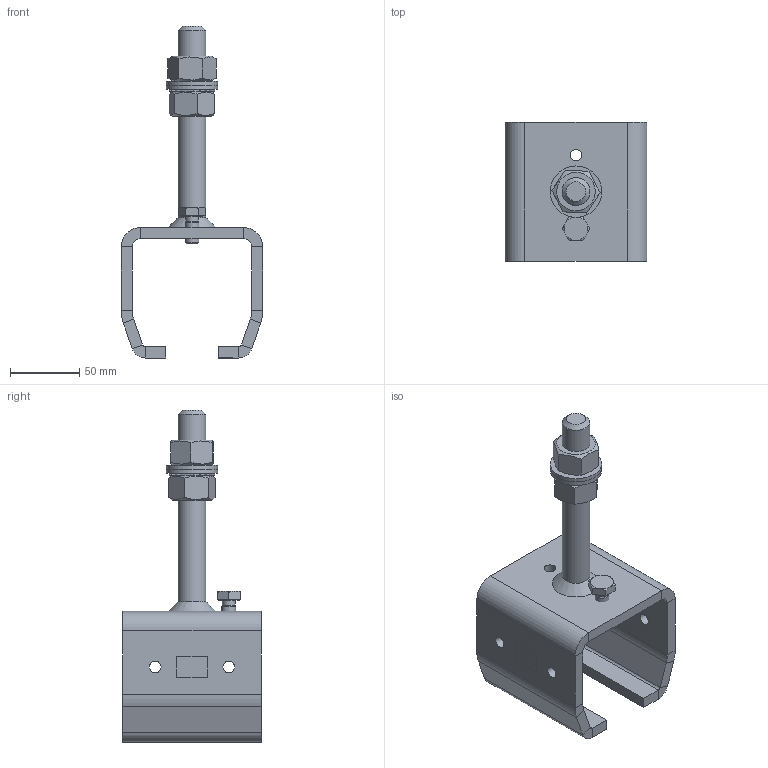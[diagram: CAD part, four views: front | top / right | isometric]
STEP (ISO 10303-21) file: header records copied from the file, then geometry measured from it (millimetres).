
FILE_DESCRIPTION(/* description */ ('Muffe H/S Nr.4'),/* implementation_level */ '2;1');
FILE_NAME(/* name */ 'Q:\sge-ma\Produktmanagement-STB\STB\Workspace\stp\010335540.stp',/* time_stamp */ '2015-07-09T13:21:12+02:00',/* author */ ('avschreier'),/* organization */ (''),/* preprocessor_version */ 'ST-DEVELOPER v15.6',/* originating_system */ 'Autodesk Inventor 2015',/* authorisation */ '');
FILE_SCHEMA (('CONFIG_CONTROL_DESIGN'));
Length unit declared in the file: millimetre
Products named in the file (8): 010335540_Schweißnähte; 337000134; 337000131; DIN_EN_ISO_4017-M10x20_en; DIN_EN_ISO_7090-21_en; DIN_6798-A_21_en; DIN_EN_ISO_4032-M20_en; 010335540
Bounding box: 102 x 100 x 239 mm (x, y, z)
Volume: 308280.7 mm3; surface area: 91627.5 mm2
Topology: 9 solids, 9 shells, 250 faces, 628 edges, 398 vertices
Faces by surface type: plane 122, cylinder 110, cone 18
Full cylindrical faces by diameter (mm): 8.376 x1, 8.4 x5, 9.188 x1, 10 x1, 15.4 x1, 17.294 x2, 20 x2, 21 x3, 37 x2
Entity records: 7117 total; most frequent: DIRECTION 1272, CARTESIAN_POINT 1238, ORIENTED_EDGE 1134, EDGE_CURVE 567, AXIS2_PLACEMENT_3D 479, VERTEX_POINT 373, LINE 314, VECTOR 314
